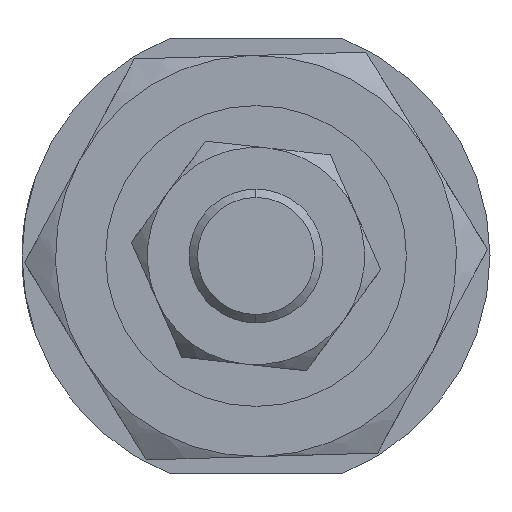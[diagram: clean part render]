
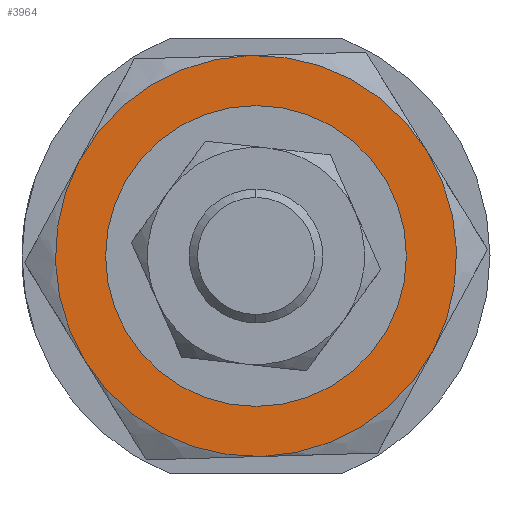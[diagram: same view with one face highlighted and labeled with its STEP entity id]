
A CAD part, left-side view. The second image highlights one B-rep face of the part: STEP entity #3964.
In plain terms, the highlighted planar face has unit normal (-1, 0, 0) as drawn and (0, 0, -1) by its records, which use the part's own axes.
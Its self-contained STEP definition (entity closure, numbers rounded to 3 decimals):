
#96 = VERTEX_POINT ( 'NONE', #137 ) ;
#110 = ORIENTED_EDGE ( 'NONE', *, *, #2874, .F. ) ;
#137 = CARTESIAN_POINT ( 'NONE',  ( 6., -10.392, -4. ) ) ;
#149 = CARTESIAN_POINT ( 'NONE',  ( -12., 0., -4. ) ) ;
#154 = DIRECTION ( 'NONE',  ( 1., 0., 0. ) ) ;
#190 = VERTEX_POINT ( 'NONE', #1095 ) ;
#225 = VERTEX_POINT ( 'NONE', #4141 ) ;
#276 = DIRECTION ( 'NONE',  ( 1., 0., 0. ) ) ;
#388 = EDGE_CURVE ( 'NONE', #2697, #943, #2400, .T. ) ;
#425 = EDGE_CURVE ( 'NONE', #96, #1289, #3695, .T. ) ;
#443 = AXIS2_PLACEMENT_3D ( 'NONE', #3713, #2163, #2823 ) ;
#484 = VERTEX_POINT ( 'NONE', #3040 ) ;
#629 = CIRCLE ( 'NONE', #3831, 12. ) ;
#859 = ORIENTED_EDGE ( 'NONE', *, *, #425, .F. ) ;
#864 = CIRCLE ( 'NONE', #1152, 12. ) ;
#943 = VERTEX_POINT ( 'NONE', #4473 ) ;
#974 = DIRECTION ( 'NONE',  ( 0., 0., 1. ) ) ;
#1010 = CARTESIAN_POINT ( 'NONE',  ( 12., 0., -4. ) ) ;
#1051 = CARTESIAN_POINT ( 'NONE',  ( 0., 0., -4. ) ) ;
#1094 = EDGE_CURVE ( 'NONE', #225, #2697, #864, .T. ) ;
#1095 = CARTESIAN_POINT ( 'NONE',  ( 8.25, 0., -4. ) ) ;
#1152 = AXIS2_PLACEMENT_3D ( 'NONE', #1169, #3005, #276 ) ;
#1169 = CARTESIAN_POINT ( 'NONE',  ( 0., 0., -4. ) ) ;
#1289 = VERTEX_POINT ( 'NONE', #1010 ) ;
#1321 = CARTESIAN_POINT ( 'NONE',  ( 0., 0., -4. ) ) ;
#1417 = CARTESIAN_POINT ( 'NONE',  ( 0., 0., -4. ) ) ;
#1521 = DIRECTION ( 'NONE',  ( 0., 0., 1. ) ) ;
#1655 = DIRECTION ( 'NONE',  ( 1., 0., 0. ) ) ;
#1752 = CARTESIAN_POINT ( 'NONE',  ( 6., 10.392, -4. ) ) ;
#1799 = CARTESIAN_POINT ( 'NONE',  ( 0., 0., -4. ) ) ;
#1869 = CARTESIAN_POINT ( 'NONE',  ( 0., 0., -4. ) ) ;
#1920 = DIRECTION ( 'NONE',  ( 1., 0., 0. ) ) ;
#2163 = DIRECTION ( 'NONE',  ( 0., 0., 1. ) ) ;
#2238 = EDGE_CURVE ( 'NONE', #943, #96, #2698, .T. ) ;
#2280 = ORIENTED_EDGE ( 'NONE', *, *, #388, .F. ) ;
#2285 = CIRCLE ( 'NONE', #3596, 12. ) ;
#2400 = CIRCLE ( 'NONE', #4270, 12. ) ;
#2427 = DIRECTION ( 'NONE',  ( 0., 0., 1. ) ) ;
#2457 = DIRECTION ( 'NONE',  ( 1., 0., 0. ) ) ;
#2526 = EDGE_CURVE ( 'NONE', #1289, #4124, #629, .T. ) ;
#2535 = EDGE_CURVE ( 'NONE', #484, #190, #3170, .T. ) ;
#2537 = EDGE_LOOP ( 'NONE', ( #3688, #859, #2824, #2280, #3870, #110 ) ) ;
#2585 = DIRECTION ( 'NONE',  ( 1., 0., 0. ) ) ;
#2622 = ORIENTED_EDGE ( 'NONE', *, *, #4291, .T. ) ;
#2654 = DIRECTION ( 'NONE',  ( 0., 0., 1. ) ) ;
#2697 = VERTEX_POINT ( 'NONE', #149 ) ;
#2698 = CIRCLE ( 'NONE', #3176, 12. ) ;
#2736 = AXIS2_PLACEMENT_3D ( 'NONE', #1799, #974, #3968 ) ;
#2823 = DIRECTION ( 'NONE',  ( 1., 0., 0. ) ) ;
#2824 = ORIENTED_EDGE ( 'NONE', *, *, #2238, .F. ) ;
#2831 = PLANE ( 'NONE',  #3524 ) ;
#2874 = EDGE_CURVE ( 'NONE', #4124, #225, #2285, .T. ) ;
#3005 = DIRECTION ( 'NONE',  ( 0., 0., 1. ) ) ;
#3040 = CARTESIAN_POINT ( 'NONE',  ( -8.25, 0., -4. ) ) ;
#3170 = CIRCLE ( 'NONE', #4078, 8.25 ) ;
#3176 = AXIS2_PLACEMENT_3D ( 'NONE', #1051, #3554, #1655 ) ;
#3331 = DIRECTION ( 'NONE',  ( 1., 0., 0. ) ) ;
#3506 = CARTESIAN_POINT ( 'NONE',  ( 0., 0., -4. ) ) ;
#3524 = AXIS2_PLACEMENT_3D ( 'NONE', #3506, #1521, #2457 ) ;
#3554 = DIRECTION ( 'NONE',  ( 0., 0., 1. ) ) ;
#3571 = FACE_BOUND ( 'NONE', #3866, .T. ) ;
#3596 = AXIS2_PLACEMENT_3D ( 'NONE', #1321, #3878, #1920 ) ;
#3688 = ORIENTED_EDGE ( 'NONE', *, *, #2526, .F. ) ;
#3695 = CIRCLE ( 'NONE', #2736, 12. ) ;
#3713 = CARTESIAN_POINT ( 'NONE',  ( 0., 0., -4. ) ) ;
#3716 = CIRCLE ( 'NONE', #443, 8.25 ) ;
#3831 = AXIS2_PLACEMENT_3D ( 'NONE', #4376, #4080, #154 ) ;
#3866 = EDGE_LOOP ( 'NONE', ( #2622, #4390 ) ) ;
#3870 = ORIENTED_EDGE ( 'NONE', *, *, #1094, .F. ) ;
#3878 = DIRECTION ( 'NONE',  ( 0., 0., 1. ) ) ;
#3964 = ADVANCED_FACE ( 'NONE', ( #3571, #4115 ), #2831, .F. ) ;
#3968 = DIRECTION ( 'NONE',  ( 1., 0., 0. ) ) ;
#4078 = AXIS2_PLACEMENT_3D ( 'NONE', #1869, #2427, #3331 ) ;
#4080 = DIRECTION ( 'NONE',  ( 0., 0., 1. ) ) ;
#4115 = FACE_OUTER_BOUND ( 'NONE', #2537, .T. ) ;
#4124 = VERTEX_POINT ( 'NONE', #1752 ) ;
#4141 = CARTESIAN_POINT ( 'NONE',  ( -6., 10.392, -4. ) ) ;
#4270 = AXIS2_PLACEMENT_3D ( 'NONE', #1417, #2654, #2585 ) ;
#4291 = EDGE_CURVE ( 'NONE', #190, #484, #3716, .T. ) ;
#4376 = CARTESIAN_POINT ( 'NONE',  ( 0., 0., -4. ) ) ;
#4390 = ORIENTED_EDGE ( 'NONE', *, *, #2535, .T. ) ;
#4473 = CARTESIAN_POINT ( 'NONE',  ( -6., -10.392, -4. ) ) ;
